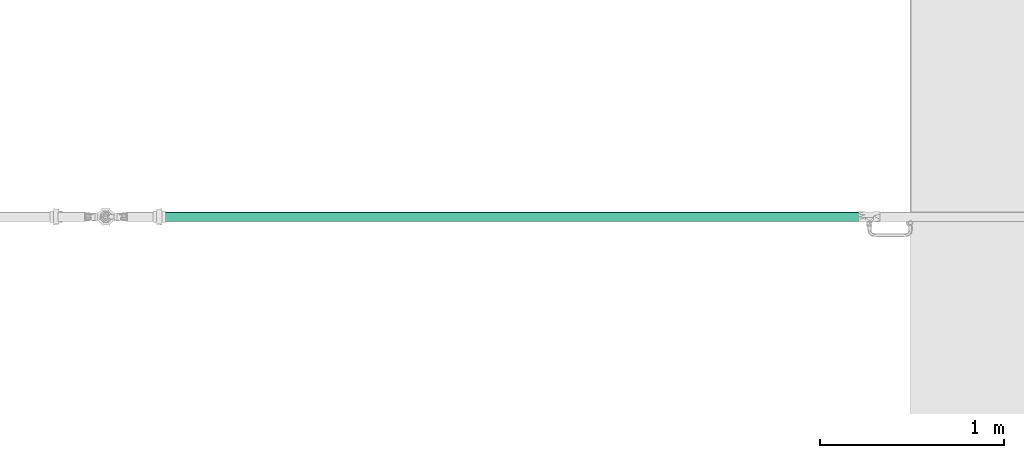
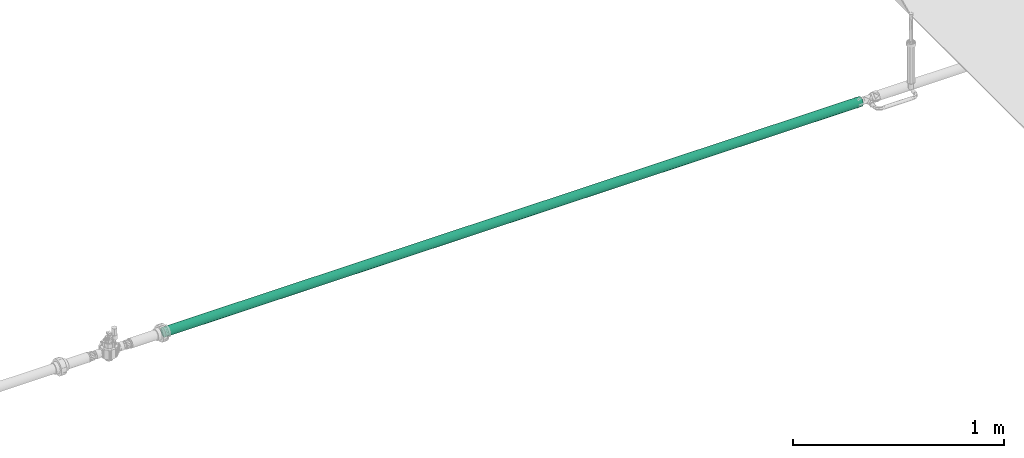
# One storey, part 7 of 166: 1 flow segment.
"""IFC2X3 building model written with IfcOpenShell, lengths in metres."""

from ifc_helpers import new_model, entity, si_unit, converted_unit, direction, frame, frame_2d, origin, place, context, subcontext, project, spatial, circle, extrude, type_object, element, save


model = new_model("IFC2X3")

# Units and contexts
model_context = context("Model", 3, precision=1e-05, world=origin(), true_north=direction((6.123233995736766e-17, 1.0)))
body_context = subcontext(model_context, "Body", "Model", "MODEL_VIEW")
ifc_project = project(units=[si_unit("LENGTHUNIT", "METRE"), converted_unit("PLANEANGLEUNIT", "DEGREE", entity("IfcPlaneAngleMeasure", 0.017453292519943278), si_unit("PLANEANGLEUNIT", "RADIAN"), dimensions=[0, 0, 0, 0, 0, 0, 0]), si_unit("AREAUNIT", "SQUARE_METRE")], contexts=[model_context])

# Site, building, storey
site_placement = place(None, origin())
site = spatial("IfcSite", under=ifc_project, at=site_placement, Name="Default", CompositionType="ELEMENT")
building_placement = place(site_placement, origin())
building = spatial("IfcBuilding", under=site, at=building_placement, Name="CASA DE ACOLHIDA PARA IDOSOS", CompositionType="ELEMENT")
storey_placement = place(building_placement, frame((0.0, 0.0, -1.7499999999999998)))
storey = spatial("IfcBuildingStorey", under=building, at=storey_placement, Name="IMPLANTAÇÃO DRENAGEM", CompositionType="ELEMENT", Elevation=-1.7499999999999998)

# Flow segment
pipe_segment_type = type_object("IfcPipeSegmentType", Name="Tipos de tubos:AF_Tubo Marrom Soldável", PredefinedType="NOTDEFINED")
flow_segment_placement = place(storey_placement, origin())
element("IfcFlowSegment", 1, at=flow_segment_placement, inside=storey, type_object=pipe_segment_type, Name="Tipos de tubos:AF_Tubo Marrom Soldável", ObjectType="Tipos de tubos:AF_Tubo Marrom Soldável", context=body_context, shape_type="SweptSolid", body=[
    extrude(circle(Radius=0.025, at=frame_2d((0.0, -2.707167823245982e-16), x_axis=(1.0, 0.0))), frame((-48.8423416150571, 9.654942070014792, -0.2000000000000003), z_axis=(1.0, 0.0, 0.0), x_axis=(0.0, -1.0, 0.0)), (0.0, 0.0, 1.0), 3.8187927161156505),
])

save(model, "model.ifc")
